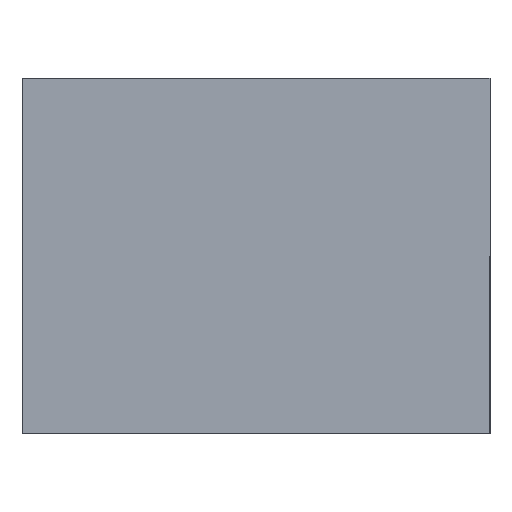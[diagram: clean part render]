
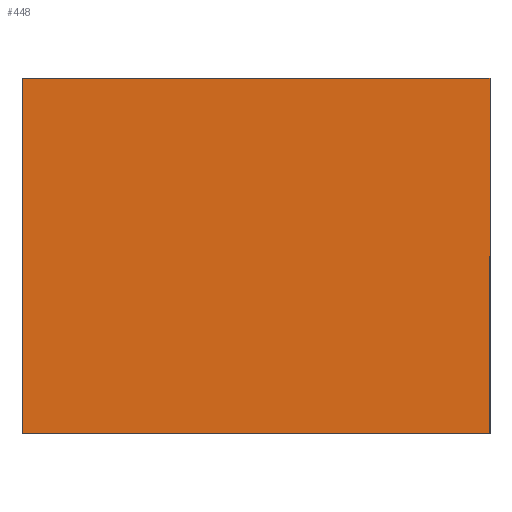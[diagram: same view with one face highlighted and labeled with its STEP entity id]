
A CAD part, front view. The second image highlights one B-rep face of the part: STEP entity #448.
In plain terms, the highlighted planar face has unit normal (0, -1, 0).
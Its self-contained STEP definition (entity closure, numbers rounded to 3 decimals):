
#47 = EDGE_CURVE ( 'NONE', #728, #1587, #1880, .T. ) ;
#70 = DIRECTION ( 'NONE',  ( 0., 0., 1. ) ) ;
#76 = DIRECTION ( 'NONE',  ( 0., 1., 0. ) ) ;
#97 = VECTOR ( 'NONE', #1838, 1000. ) ;
#101 = ORIENTED_EDGE ( 'NONE', *, *, #897, .F. ) ;
#120 = EDGE_CURVE ( 'NONE', #1491, #2323, #1625, .T. ) ;
#125 = CARTESIAN_POINT ( 'NONE',  ( 0., 0., 0. ) ) ;
#135 = PLANE ( 'NONE',  #2129 ) ;
#173 = CARTESIAN_POINT ( 'NONE',  ( 62.5, 0., 47.5 ) ) ;
#258 = CARTESIAN_POINT ( 'NONE',  ( -62.5, 0., 47.5 ) ) ;
#274 = DIRECTION ( 'NONE',  ( 1., 0., 0. ) ) ;
#448 = ADVANCED_FACE ( 'NONE', ( #1570 ), #135, .F. ) ;
#589 = CARTESIAN_POINT ( 'NONE',  ( 62.5, 0., -47.5 ) ) ;
#662 = EDGE_CURVE ( 'NONE', #2323, #728, #1665, .T. ) ;
#728 = VERTEX_POINT ( 'NONE', #589 ) ;
#852 = VECTOR ( 'NONE', #1097, 1000. ) ;
#897 = EDGE_CURVE ( 'NONE', #1587, #1491, #1062, .T. ) ;
#1062 = LINE ( 'NONE', #1862, #97 ) ;
#1071 = CARTESIAN_POINT ( 'NONE',  ( -62.5, 0., 47.5 ) ) ;
#1097 = DIRECTION ( 'NONE',  ( -1., 0., 0. ) ) ;
#1103 = VECTOR ( 'NONE', #1261, 1000. ) ;
#1128 = EDGE_LOOP ( 'NONE', ( #2030, #1571, #101, #1633 ) ) ;
#1159 = CARTESIAN_POINT ( 'NONE',  ( -62.5, 0., -47.5 ) ) ;
#1209 = CARTESIAN_POINT ( 'NONE',  ( 62.5, 0., -47.5 ) ) ;
#1261 = DIRECTION ( 'NONE',  ( 0., 0., -1. ) ) ;
#1491 = VERTEX_POINT ( 'NONE', #1071 ) ;
#1570 = FACE_OUTER_BOUND ( 'NONE', #1128, .T. ) ;
#1571 = ORIENTED_EDGE ( 'NONE', *, *, #120, .F. ) ;
#1587 = VERTEX_POINT ( 'NONE', #1854 ) ;
#1625 = LINE ( 'NONE', #258, #1689 ) ;
#1633 = ORIENTED_EDGE ( 'NONE', *, *, #47, .F. ) ;
#1665 = LINE ( 'NONE', #1209, #1103 ) ;
#1689 = VECTOR ( 'NONE', #274, 1000. ) ;
#1838 = DIRECTION ( 'NONE',  ( 0., 0., 1. ) ) ;
#1854 = CARTESIAN_POINT ( 'NONE',  ( -62.5, 0., -47.5 ) ) ;
#1862 = CARTESIAN_POINT ( 'NONE',  ( -62.5, 0., -47.5 ) ) ;
#1880 = LINE ( 'NONE', #1159, #852 ) ;
#2030 = ORIENTED_EDGE ( 'NONE', *, *, #662, .F. ) ;
#2129 = AXIS2_PLACEMENT_3D ( 'NONE', #125, #76, #70 ) ;
#2323 = VERTEX_POINT ( 'NONE', #173 ) ;
